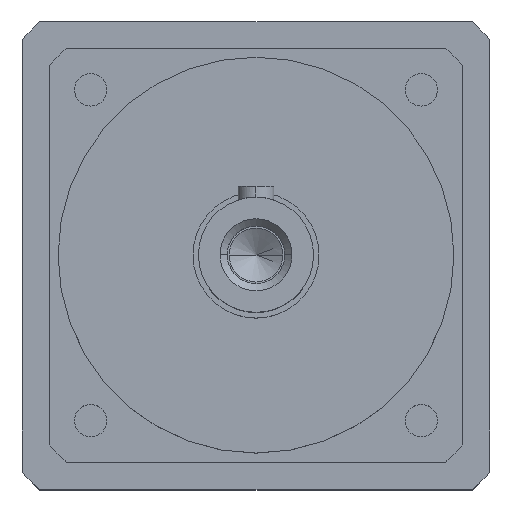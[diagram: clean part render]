
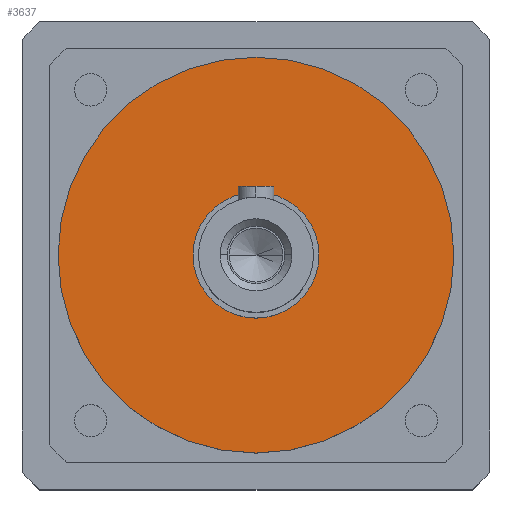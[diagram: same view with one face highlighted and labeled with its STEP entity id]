
A CAD part, top view. The second image highlights one B-rep face of the part: STEP entity #3637.
In plain terms, the highlighted planar face has unit normal (0, 0, 1).
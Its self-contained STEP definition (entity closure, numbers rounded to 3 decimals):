
#230 = DIRECTION ( 'NONE',  ( 0., 0., -1. ) ) ;
#400 = CARTESIAN_POINT ( 'NONE',  ( 0., 0., 12. ) ) ;
#419 = ORIENTED_EDGE ( 'NONE', *, *, #3561, .F. ) ;
#505 = CIRCLE ( 'NONE', #1758, 17.5 ) ;
#542 = CARTESIAN_POINT ( 'NONE',  ( 17.5, 0., 12. ) ) ;
#653 = FACE_OUTER_BOUND ( 'NONE', #3397, .T. ) ;
#660 = CARTESIAN_POINT ( 'NONE',  ( -55., 0., 12. ) ) ;
#736 = FACE_BOUND ( 'NONE', #1959, .T. ) ;
#905 = VERTEX_POINT ( 'NONE', #2067 ) ;
#930 = CARTESIAN_POINT ( 'NONE',  ( 0., 0., 12. ) ) ;
#1030 = CIRCLE ( 'NONE', #1675, 55. ) ;
#1155 = CARTESIAN_POINT ( 'NONE',  ( 0., 0., 12. ) ) ;
#1255 = DIRECTION ( 'NONE',  ( -1., 0., 0. ) ) ;
#1350 = PLANE ( 'NONE',  #3543 ) ;
#1431 = AXIS2_PLACEMENT_3D ( 'NONE', #3442, #1588, #3757 ) ;
#1476 = DIRECTION ( 'NONE',  ( -1., 0., 0. ) ) ;
#1588 = DIRECTION ( 'NONE',  ( 0., 0., -1. ) ) ;
#1661 = DIRECTION ( 'NONE',  ( 0., 0., -1. ) ) ;
#1675 = AXIS2_PLACEMENT_3D ( 'NONE', #1155, #3334, #1476 ) ;
#1684 = EDGE_CURVE ( 'NONE', #2049, #2540, #505, .T. ) ;
#1758 = AXIS2_PLACEMENT_3D ( 'NONE', #2112, #230, #2414 ) ;
#1959 = EDGE_LOOP ( 'NONE', ( #2719, #2057 ) ) ;
#2049 = VERTEX_POINT ( 'NONE', #542 ) ;
#2057 = ORIENTED_EDGE ( 'NONE', *, *, #1684, .T. ) ;
#2067 = CARTESIAN_POINT ( 'NONE',  ( 55., 0., 12. ) ) ;
#2112 = CARTESIAN_POINT ( 'NONE',  ( 0., 0., 12. ) ) ;
#2234 = EDGE_CURVE ( 'NONE', #2540, #2049, #2798, .T. ) ;
#2252 = CIRCLE ( 'NONE', #3281, 55. ) ;
#2414 = DIRECTION ( 'NONE',  ( -1., 0., 0. ) ) ;
#2540 = VERTEX_POINT ( 'NONE', #2906 ) ;
#2719 = ORIENTED_EDGE ( 'NONE', *, *, #2234, .T. ) ;
#2742 = ORIENTED_EDGE ( 'NONE', *, *, #3145, .F. ) ;
#2798 = CIRCLE ( 'NONE', #1431, 17.5 ) ;
#2906 = CARTESIAN_POINT ( 'NONE',  ( -17.5, 0., 12. ) ) ;
#3115 = DIRECTION ( 'NONE',  ( 0., 0., -1. ) ) ;
#3145 = EDGE_CURVE ( 'NONE', #3219, #905, #2252, .T. ) ;
#3219 = VERTEX_POINT ( 'NONE', #660 ) ;
#3281 = AXIS2_PLACEMENT_3D ( 'NONE', #930, #3115, #1255 ) ;
#3334 = DIRECTION ( 'NONE',  ( 0., 0., -1. ) ) ;
#3397 = EDGE_LOOP ( 'NONE', ( #2742, #419 ) ) ;
#3442 = CARTESIAN_POINT ( 'NONE',  ( 0., 0., 12. ) ) ;
#3543 = AXIS2_PLACEMENT_3D ( 'NONE', #400, #1661, #3821 ) ;
#3561 = EDGE_CURVE ( 'NONE', #905, #3219, #1030, .T. ) ;
#3637 = ADVANCED_FACE ( 'NONE', ( #736, #653 ), #1350, .F. ) ;
#3757 = DIRECTION ( 'NONE',  ( -1., 0., 0. ) ) ;
#3821 = DIRECTION ( 'NONE',  ( -1., 0., 0. ) ) ;
